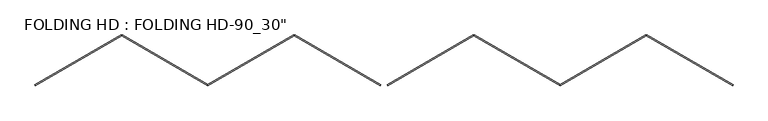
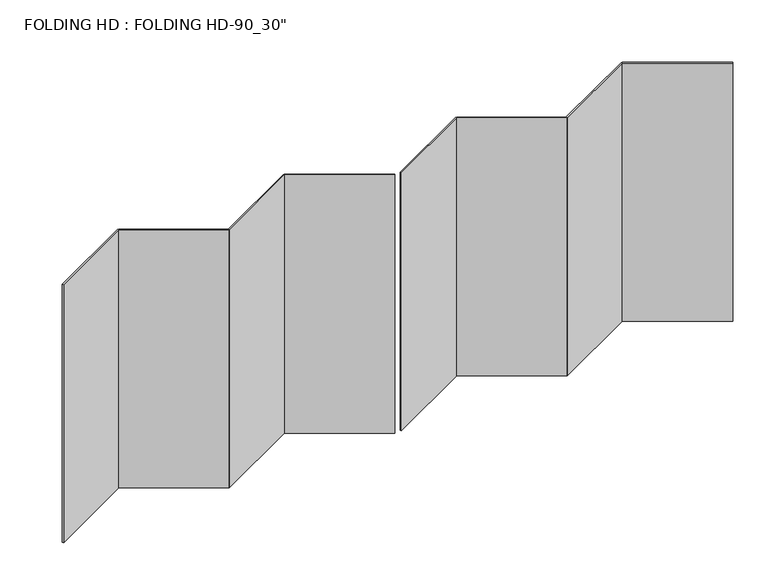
"""IFC4 building model written with IfcOpenShell, lengths in millimetres: plate geometry."""

from ifc_helpers import new_model, si_unit, origin, origin_with_axes, place, context, project, spatial, polyline, outline, extrude, source, transform, mapped, element, save


def plate_ff72692a(model_context):
    return source(origin(), model_context, "Body", "SweptSolid", [
        extrude(outline(polyline([(2370.5771366, 450.0), (1591.1542732, 0.0), (1586.1542732, 8.660254), (2365.5771366, 458.6602541), (2370.5771366, 450.0)])), origin_with_axes(), (0.0, 0.0, 1.0), 2570.0),
        extrude(outline(polyline([(2370.5771366, 450.0), (2375.5771366, 458.660254), (3155.0, 8.660254), (3150.0, 0.0), (2370.5771366, 450.0)])), origin_with_axes(), (0.0, 0.0, 1.0), 2570.0),
        extrude(outline(polyline([(811.7314098, 450.0), (816.7314098, 458.660254), (1596.1542732, 8.660254), (1591.1542732, 0.0), (811.7314098, 450.0)])), origin_with_axes(), (0.0, 0.0, 1.0), 2570.0),
        extrude(outline(polyline([(811.7314098, 450.0), (32.3085464, 0.0), (27.3085464, 8.660254), (806.7314098, 458.660254), (811.7314098, 450.0)])), origin_with_axes(), (0.0, 0.0, 1.0), 2570.0),
        extrude(outline(polyline([(-811.7314098, 450.0), (-1591.1542732, 0.0), (-1596.1542732, 8.660254), (-816.7314098, 458.660254), (-811.7314098, 450.0)])), origin_with_axes(), (0.0, 0.0, 1.0), 2570.0),
        extrude(outline(polyline([(-811.7314098, 450.0), (-806.7314098, 458.660254), (-27.3085464, 8.660254), (-32.3085464, 0.0), (-811.7314098, 450.0)])), origin_with_axes(), (0.0, 0.0, 1.0), 2570.0),
        extrude(outline(polyline([(-2370.5771366, 450.0), (-2365.5771366, 458.660254), (-1586.1542732, 8.660254), (-1591.1542732, 0.0), (-2370.5771366, 450.0)])), origin_with_axes(), (0.0, 0.0, 1.0), 2570.0),
        extrude(outline(polyline([(-2370.5771366, 450.0), (-3150.0, 0.0), (-3155.0, 8.660254), (-2375.5771366, 458.660254), (-2370.5771366, 450.0)])), origin_with_axes(), (0.0, 0.0, 1.0), 2570.0),
    ])


if __name__ == "__main__":
    model = new_model("IFC4")
    model_context = context("Model", 3, world=origin())
    ifc_project = project(units=[si_unit("LENGTHUNIT", "METRE", prefix="MILLI")], contexts=[model_context])
    site = spatial("IfcSite", under=ifc_project)
    building = spatial("IfcBuilding", under=site)
    placement = place(None, origin())
    plate_shape = plate_ff72692a(model_context)
    element("IfcPlate", 1, ObjectType="FOLDING HD : FOLDING HD-90_30\"", at=placement, inside=building, context=model_context, shape_type="MappedRepresentation", body=[
        mapped(plate_shape, transform((0.0, 0.0, 0.0), x_axis=(1.0, 0.0, 0.0), y_axis=(0.0, 1.0, 0.0), z_axis=(0.0, 0.0, 1.0))),
    ])
    save(model, "model.ifc")
